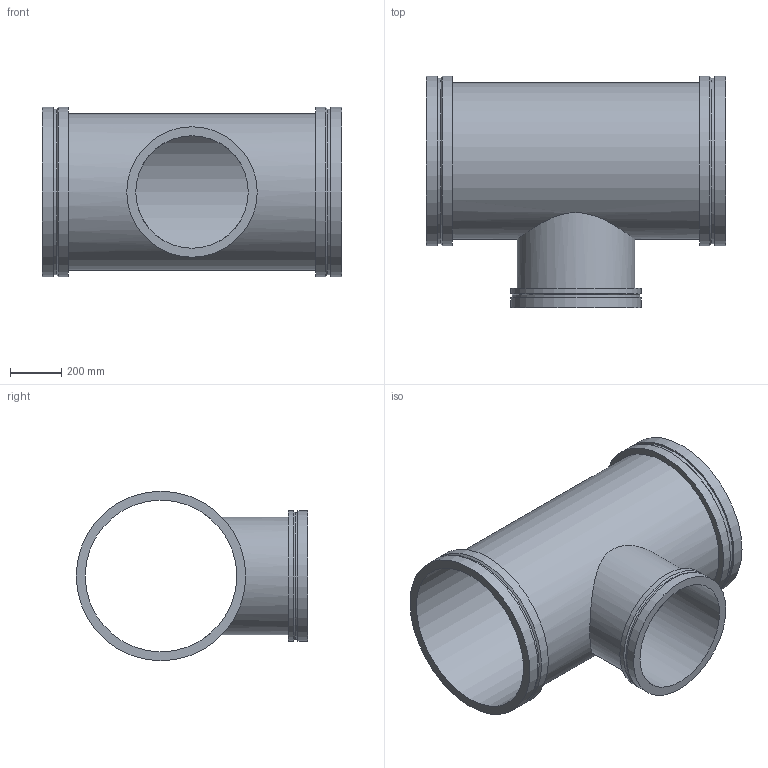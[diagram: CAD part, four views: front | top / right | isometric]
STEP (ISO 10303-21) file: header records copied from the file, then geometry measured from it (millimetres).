
FILE_DESCRIPTION(/* description */ ('VIC REDUCING TEE No W025 VR','CAx-IF Rec.Pracs.---Representation and Presentation of Product Manufacturing Information (PMI)---4.0---2014-10-13'),/* implementation_level */ '2;1');
FILE_NAME(/* name */ 'C:\Users\kkamble\AppData\Roaming\Autodesk\ApplicationPlugins\Back Up\Victaulic_Vic-Ring_Tee Reducing_No W25 VR (AGR)\Victaulic_Vic-Ring_Tee Reducing_No W25 VR (AGR)_24.0x18.0 (600x450).stp',/* time_stamp */ '2020-09-10T11:53:12+05:00',/* author */ ('mchristi'),/* organization */ ('Victaulic'),/* preprocessor_version */ 'ST-DEVELOPER v17.2',/* originating_system */ 'Autodesk Inventor 2019',/* authorisation */ '');
FILE_SCHEMA (('AP242_MANAGED_MODEL_BASED_3D_ENGINEERING_MIM_LF { 1 0 10303 442 1 1 4 }'));
Length unit declared in the file: inch
Products named in the file (1): W25 VR-24.0x18.0
Bounding box: 1168.4 x 901.7 x 660.4 mm (x, y, z)
Volume: 36225383.9 mm3; surface area: 5388895.2 mm2
Topology: 1 solids, 1 shells, 25 faces, 68 edges, 52 vertices
Faces by surface type: cylinder 13, plane 9, cone 3
Full cylindrical faces by diameter (mm): 438.15 x1, 457.2 x1, 495.3 x1, 508 x2, 590.55 x1, 609.6 x1, 645.922 x2, 660.4 x4
Entity records: 1219 total; most frequent: CARTESIAN_POINT 375, DIRECTION 190, ORIENTED_EDGE 136, AXIS2_PLACEMENT_3D 87, EDGE_CURVE 68, VERTEX_POINT 52, CIRCLE 48, EDGE_LOOP 36
